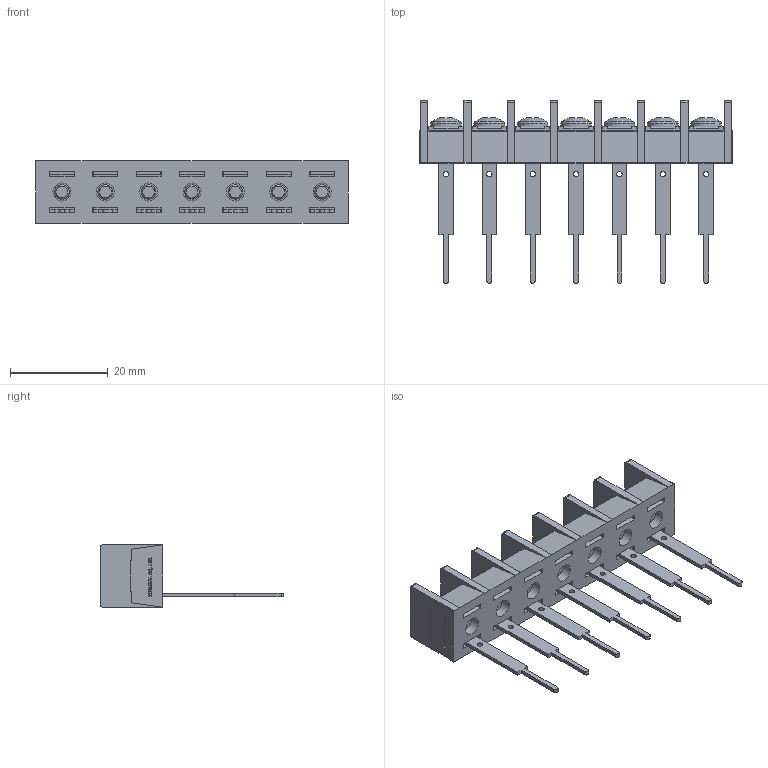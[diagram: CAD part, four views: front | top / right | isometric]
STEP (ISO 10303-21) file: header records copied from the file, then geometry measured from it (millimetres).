
FILE_DESCRIPTION(/* description */ ('Alibre Inc.'),/* implementation_level */ '2;1');
FILE_NAME(/* name */ 'export0',/* time_stamp */ '2015-10-20T20:07:18+09:00',/* author */ (''),/* organization */ (''),/* preprocessor_version */ 'ST-DEVELOPER v14',/* originating_system */ 'Alibre',/* authorisation */ '');
FILE_SCHEMA (('CONFIG_CONTROL_DESIGN'));
Length unit declared in the file: centimetre
Products named in the file (1): ID_1
Bounding box: 64.14 x 37.5 x 12.8 mm (x, y, z)
Volume: 6295.3 mm3; surface area: 8521.5 mm2
Topology: 1 solids, 113 shells, 2392 faces, 6185 edges, 4094 vertices
Faces by surface type: plane 1789, bspline 468, cylinder 79, cone 35, torus 14, sphere 7
Full cylindrical faces by diameter (mm): 1.1 x7, 3 x7, 3.7 x7, 4.6 x7, 6.3 x7
Entity records: 69689 total; most frequent: CARTESIAN_POINT 17026, ORIENTED_EDGE 12216, DIRECTION 7267, EDGE_CURVE 6108, VECTOR 4699, LINE 4699, VERTEX_POINT 4073, EDGE_LOOP 2635
